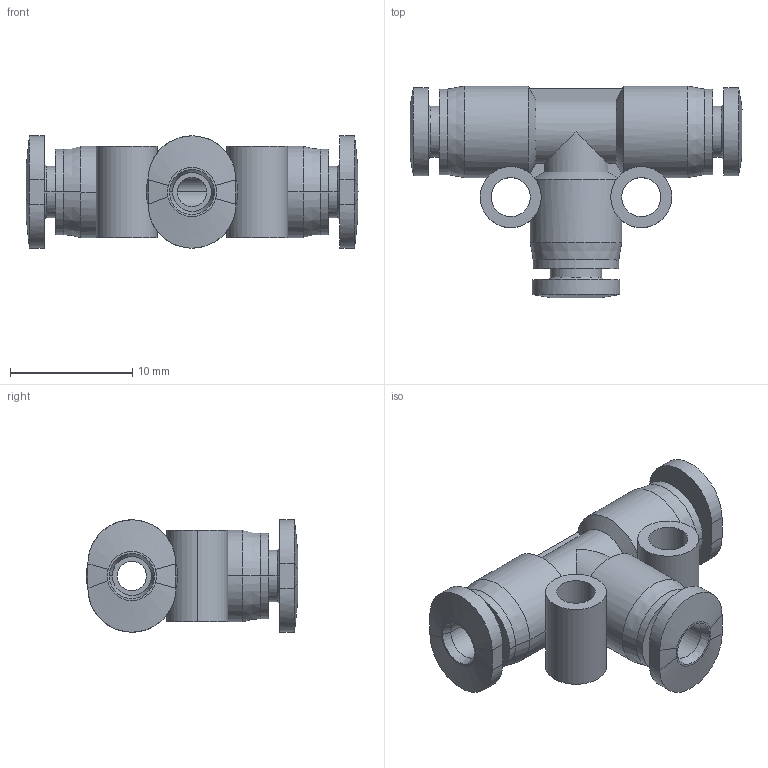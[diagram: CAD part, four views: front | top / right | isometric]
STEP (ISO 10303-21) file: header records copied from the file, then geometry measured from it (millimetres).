
FILE_DESCRIPTION (( 'STEP AP203' ), '1' );
FILE_NAME ('FMT03-00.STEP', '2020-07-07T11:17:38', ( '' ), ( '' ), 'SwSTEP 2.0', 'SolidWorks 2019', '' );
FILE_SCHEMA (( 'CONFIG_CONTROL_DESIGN' ));
Length unit declared in the file: millimetre
Products named in the file (1): FMT03-00
Bounding box: 27.2 x 17.35 x 9.2 mm (x, y, z)
Volume: 1297.9 mm3; surface area: 1860.4 mm2
Topology: 1 solids, 1 shells, 111 faces, 267 edges, 166 vertices
Faces by surface type: cylinder 42, cone 24, bspline 24, plane 21
Entity records: 4292 total; most frequent: CARTESIAN_POINT 1754, ORIENTED_EDGE 534, DIRECTION 485, EDGE_CURVE 267, AXIS2_PLACEMENT_3D 195, VERTEX_POINT 166, EDGE_LOOP 127, ADVANCED_FACE 111
